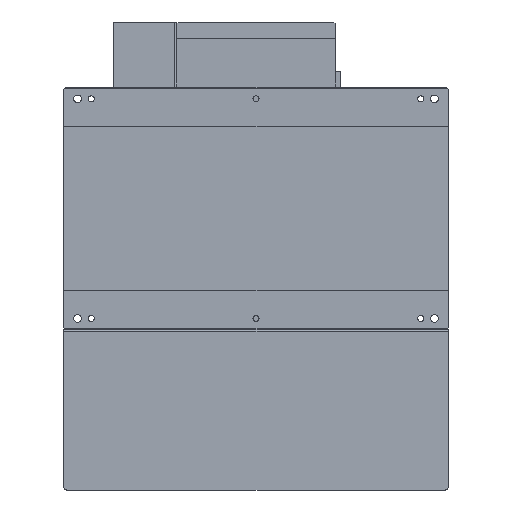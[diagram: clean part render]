
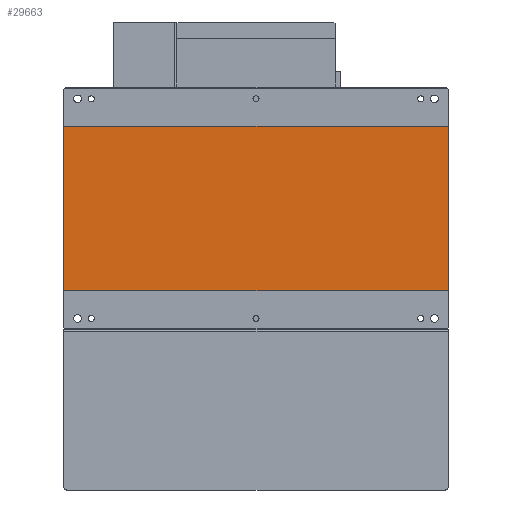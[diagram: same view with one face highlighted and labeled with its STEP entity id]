
A CAD part, front view. The second image highlights one B-rep face of the part: STEP entity #29663.
In plain terms, the highlighted planar face has unit normal (0, -1, 0).
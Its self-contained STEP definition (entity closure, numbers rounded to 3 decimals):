
#2987 = FACE_OUTER_BOUND ( 'NONE', #89964, .T. ) ;
#6553 = CARTESIAN_POINT ( 'NONE',  ( 350., 1., 150. ) ) ;
#11097 = DIRECTION ( 'NONE',  ( 0., 0., 1. ) ) ;
#11530 = ORIENTED_EDGE ( 'NONE', *, *, #14290, .F. ) ;
#14290 = EDGE_CURVE ( 'NONE', #40060, #15660, #34261, .T. ) ;
#15323 = DIRECTION ( 'NONE',  ( 1., 0., 0. ) ) ;
#15377 = VECTOR ( 'NONE', #60373, 1000. ) ;
#15660 = VERTEX_POINT ( 'NONE', #6553 ) ;
#17649 = VECTOR ( 'NONE', #36387, 1000. ) ;
#17702 = DIRECTION ( 'NONE',  ( 0., 0., 1. ) ) ;
#19390 = CARTESIAN_POINT ( 'NONE',  ( -350., 1., 150. ) ) ;
#19906 = CARTESIAN_POINT ( 'NONE',  ( -350., 1., 150. ) ) ;
#21666 = CARTESIAN_POINT ( 'NONE',  ( -350., 1., -150. ) ) ;
#22275 = EDGE_CURVE ( 'NONE', #82333, #40060, #63842, .T. ) ;
#23597 = LINE ( 'NONE', #45271, #32412 ) ;
#29663 = ADVANCED_FACE ( 'NONE', ( #2987 ), #44191, .F. ) ;
#31569 = EDGE_CURVE ( 'NONE', #82333, #33224, #23597, .T. ) ;
#32412 = VECTOR ( 'NONE', #15323, 1000. ) ;
#33224 = VERTEX_POINT ( 'NONE', #42727 ) ;
#34261 = LINE ( 'NONE', #19906, #15377 ) ;
#36387 = DIRECTION ( 'NONE',  ( 0., 0., 1. ) ) ;
#40060 = VERTEX_POINT ( 'NONE', #19390 ) ;
#42727 = CARTESIAN_POINT ( 'NONE',  ( 350., 1., -150. ) ) ;
#43139 = CARTESIAN_POINT ( 'NONE',  ( -350., 1., -150. ) ) ;
#44191 = PLANE ( 'NONE',  #75649 ) ;
#45271 = CARTESIAN_POINT ( 'NONE',  ( -350., 1., -150. ) ) ;
#49689 = CARTESIAN_POINT ( 'NONE',  ( -350., 1., -150. ) ) ;
#50218 = ORIENTED_EDGE ( 'NONE', *, *, #22275, .F. ) ;
#50736 = ORIENTED_EDGE ( 'NONE', *, *, #31569, .T. ) ;
#59976 = EDGE_CURVE ( 'NONE', #33224, #15660, #75572, .T. ) ;
#60373 = DIRECTION ( 'NONE',  ( 1., 0., 0. ) ) ;
#60672 = CARTESIAN_POINT ( 'NONE',  ( 350., 1., -150. ) ) ;
#63842 = LINE ( 'NONE', #49689, #72619 ) ;
#72619 = VECTOR ( 'NONE', #17702, 1000. ) ;
#75572 = LINE ( 'NONE', #60672, #17649 ) ;
#75649 = AXIS2_PLACEMENT_3D ( 'NONE', #43139, #84665, #11097 ) ;
#82333 = VERTEX_POINT ( 'NONE', #21666 ) ;
#84665 = DIRECTION ( 'NONE',  ( 0., 1., 0. ) ) ;
#89964 = EDGE_LOOP ( 'NONE', ( #98140, #11530, #50218, #50736 ) ) ;
#98140 = ORIENTED_EDGE ( 'NONE', *, *, #59976, .T. ) ;
